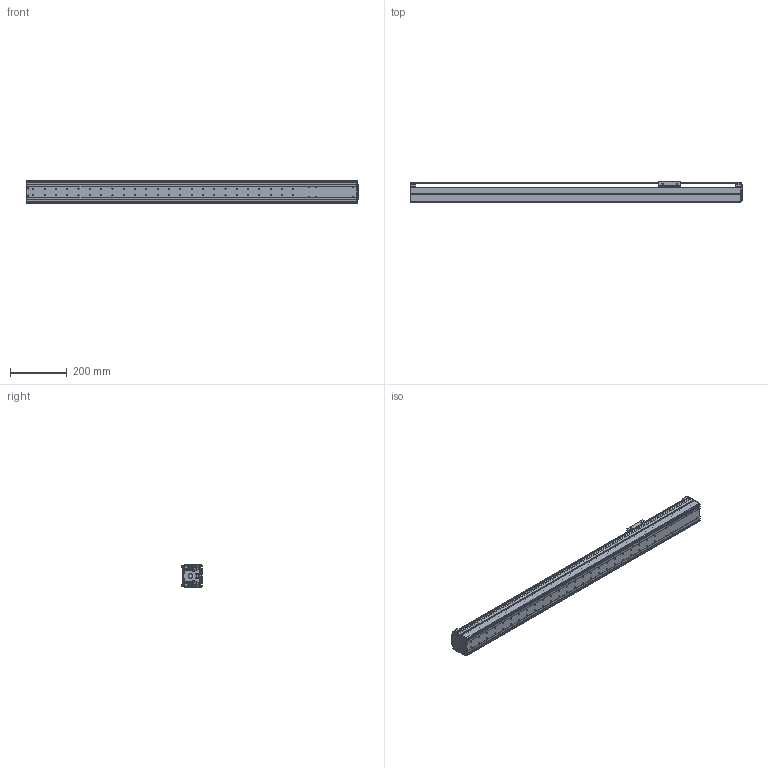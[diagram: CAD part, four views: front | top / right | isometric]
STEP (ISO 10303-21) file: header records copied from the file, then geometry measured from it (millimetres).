
FILE_DESCRIPTION((''),'2;1');
FILE_NAME('BE10E-ST-S_N-85_IGS_PRT','2017-06-17T',(' '),(''),'PRO/ENGINEER BY PARAMETRIC TECHNOLOGY CORPORATION, 2015030','PRO/ENGINEER BY PARAMETRIC TECHNOLOGY CORPORATION, 2015030','');
FILE_SCHEMA(('CONFIG_CONTROL_DESIGN'));
Length unit declared in the file: millimetre
Products named in the file (1): BE10E-ST-S_N-85_IGS_PRT
Bounding box: 1175 x 75 x 78 mm (x, y, z)
Volume: 1198086.3 mm3; surface area: 879266.6 mm2
Topology: 4 solids, 89 shells, 1235 faces, 3323 edges, 2170 vertices
Faces by surface type: cylinder 640, plane 442, torus 64, sphere 42, cone 38, bspline 9
Entity records: 40213 total; most frequent: CARTESIAN_POINT 8400, DIRECTION 6912, ORIENTED_EDGE 6264, EDGE_CURVE 3299, AXIS2_PLACEMENT_3D 2638, VERTEX_POINT 2170, VECTOR 1636, LINE 1636
